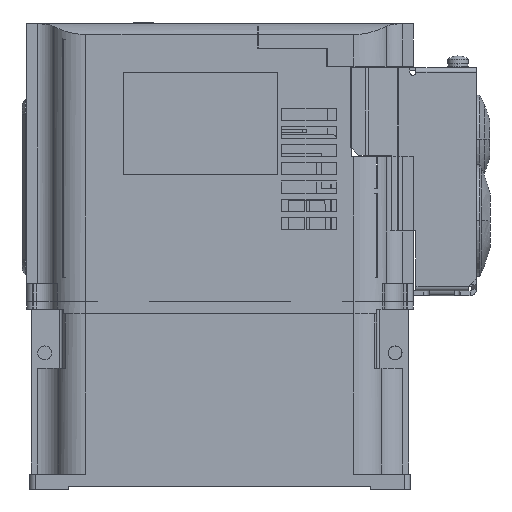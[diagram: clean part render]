
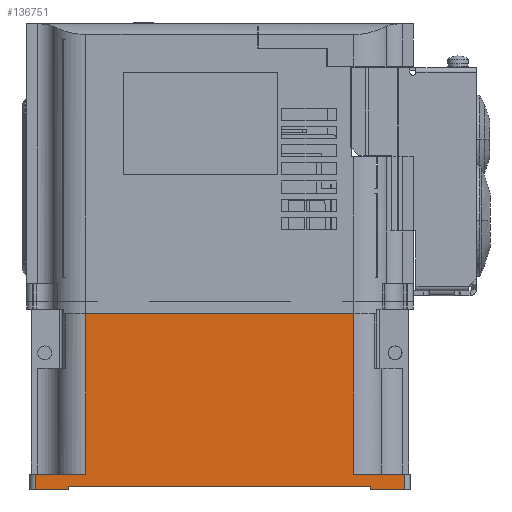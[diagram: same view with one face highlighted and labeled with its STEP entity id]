
A CAD part, left-side view. The second image highlights one B-rep face of the part: STEP entity #136751.
In plain terms, the highlighted planar face has unit normal (-1, 0, 0).
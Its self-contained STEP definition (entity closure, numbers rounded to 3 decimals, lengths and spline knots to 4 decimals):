
#45948=DIRECTION('',(0.,0.,1.));
#45949=VECTOR('',#45948,2.0866);
#45950=CARTESIAN_POINT('',(-2.0472,-1.7471,
0.1969));
#45951=LINE('',#45950,#45949);
#45998=DIRECTION('',(0.,1.,0.));
#45999=VECTOR('',#45998,3.4941);
#46000=CARTESIAN_POINT('',(-2.0472,-1.7471,
2.2835));
#46001=LINE('',#46000,#45999);
#46006=DIRECTION('',(0.,0.,-1.));
#46007=VECTOR('',#46006,2.0866);
#46008=CARTESIAN_POINT('',(-2.0472,1.7471,
2.2835));
#46009=LINE('',#46008,#46007);
#46068=DIRECTION('',(0.,1.,0.));
#46069=VECTOR('',#46068,0.6545);
#46070=CARTESIAN_POINT('',(-2.0472,1.7471,
0.1969));
#46071=LINE('',#46070,#46069);
#46132=DIRECTION('',(0.,0.,-1.));
#46133=VECTOR('',#46132,0.0394);
#46134=CARTESIAN_POINT('',(-2.0472,1.9685,
0.0394));
#46135=LINE('',#46134,#46133);
#46136=DIRECTION('',(0.,1.,0.));
#46137=VECTOR('',#46136,0.4331);
#46138=CARTESIAN_POINT('',(-2.0472,1.9685,0.));
#46139=LINE('',#46138,#46137);
#46140=DIRECTION('',(0.,1.,0.));
#46141=VECTOR('',#46140,0.4331);
#46142=CARTESIAN_POINT('',(-2.0472,-2.4016,0.));
#46143=LINE('',#46142,#46141);
#46158=DIRECTION('',(0.,-1.,0.));
#46159=VECTOR('',#46158,3.937);
#46160=CARTESIAN_POINT('',(-2.0472,1.9685,
0.0394));
#46161=LINE('',#46160,#46159);
#49328=DIRECTION('',(0.,0.,-1.));
#49329=VECTOR('',#49328,0.0394);
#49330=CARTESIAN_POINT('',(-2.0472,-1.9685,
0.0394));
#49331=LINE('',#49330,#49329);
#49373=DIRECTION('',(0.,0.,1.));
#49374=VECTOR('',#49373,0.1969);
#49375=CARTESIAN_POINT('',(-2.0472,-2.4016,0.));
#49376=LINE('',#49375,#49374);
#49390=DIRECTION('',(0.,1.,0.));
#49391=VECTOR('',#49390,0.6545);
#49392=CARTESIAN_POINT('',(-2.0472,-2.4016,
0.1969));
#49393=LINE('',#49392,#49391);
#53491=DIRECTION('',(0.,0.,-1.));
#53492=VECTOR('',#53491,0.1969);
#53493=CARTESIAN_POINT('',(-2.0472,2.4016,
0.1969));
#53494=LINE('',#53493,#53492);
#68875=CARTESIAN_POINT('',(-2.0472,-1.7471,
0.1969));
#68876=VERTEX_POINT('',#68875);
#68877=CARTESIAN_POINT('',(-2.0472,-1.7471,
2.2835));
#68878=VERTEX_POINT('',#68877);
#68879=CARTESIAN_POINT('',(-2.0472,1.7471,
2.2835));
#68881=VERTEX_POINT('',#68879);
#68889=CARTESIAN_POINT('',(-2.0472,1.7471,
0.1969));
#68890=VERTEX_POINT('',#68889);
#68915=CARTESIAN_POINT('',(-2.0472,2.4016,
0.1969));
#68916=VERTEX_POINT('',#68915);
#68926=CARTESIAN_POINT('',(-2.0472,1.9685,0.));
#68928=VERTEX_POINT('',#68926);
#68933=CARTESIAN_POINT('',(-2.0472,2.4016,0.));
#68934=VERTEX_POINT('',#68933);
#68943=CARTESIAN_POINT('',(-2.0472,1.9685,
0.0394));
#68944=VERTEX_POINT('',#68943);
#68947=CARTESIAN_POINT('',(-2.0472,-1.9685,
0.0394));
#68948=VERTEX_POINT('',#68947);
#68949=CARTESIAN_POINT('',(-2.0472,-2.4016,
0.1969));
#68950=VERTEX_POINT('',#68949);
#68951=CARTESIAN_POINT('',(-2.0472,-2.4016,0.));
#68952=VERTEX_POINT('',#68951);
#68953=CARTESIAN_POINT('',(-2.0472,-1.9685,0.));
#68954=VERTEX_POINT('',#68953);
#136726=CARTESIAN_POINT('',(-2.0472,2.4803,
2.2835));
#136727=DIRECTION('',(-1.,0.,0.));
#136728=DIRECTION('',(0.,-1.,0.));
#136729=AXIS2_PLACEMENT_3D('',#136726,#136727,#136728);
#136730=PLANE('',#136729);
#136732=ORIENTED_EDGE('',*,*,#136731,.F.);
#136733=ORIENTED_EDGE('',*,*,#136717,.T.);
#136734=ORIENTED_EDGE('',*,*,#136696,.T.);
#136736=ORIENTED_EDGE('',*,*,#136735,.F.);
#136737=ORIENTED_EDGE('',*,*,#136652,.F.);
#136738=ORIENTED_EDGE('',*,*,#136565,.F.);
#136739=ORIENTED_EDGE('',*,*,#136552,.F.);
#136740=ORIENTED_EDGE('',*,*,#136514,.F.);
#136742=ORIENTED_EDGE('',*,*,#136741,.F.);
#136744=ORIENTED_EDGE('',*,*,#136743,.F.);
#136746=ORIENTED_EDGE('',*,*,#136745,.T.);
#136748=ORIENTED_EDGE('',*,*,#136747,.F.);
#136749=EDGE_LOOP('',(#136732,#136733,#136734,#136736,#136737,#136738,#136739,
#136740,#136742,#136744,#136746,#136748));
#136750=FACE_OUTER_BOUND('',#136749,.F.);
#136751=ADVANCED_FACE('',(#136750),#136730,.T.);
#136514=EDGE_CURVE('',#68876,#68878,#45951,.T.);
#136552=EDGE_CURVE('',#68878,#68881,#46001,.T.);
#136565=EDGE_CURVE('',#68881,#68890,#46009,.T.);
#136652=EDGE_CURVE('',#68890,#68916,#46071,.T.);
#136696=EDGE_CURVE('',#68928,#68934,#46139,.T.);
#136717=EDGE_CURVE('',#68944,#68928,#46135,.T.);
#136731=EDGE_CURVE('',#68944,#68948,#46161,.T.);
#136735=EDGE_CURVE('',#68916,#68934,#53494,.T.);
#136741=EDGE_CURVE('',#68950,#68876,#49393,.T.);
#136743=EDGE_CURVE('',#68952,#68950,#49376,.T.);
#136745=EDGE_CURVE('',#68952,#68954,#46143,.T.);
#136747=EDGE_CURVE('',#68948,#68954,#49331,.T.);
